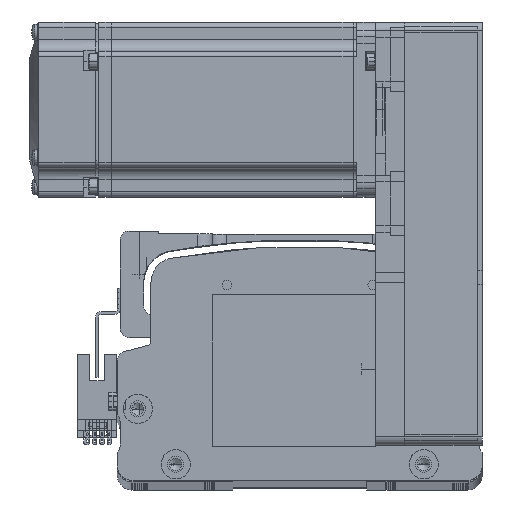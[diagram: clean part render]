
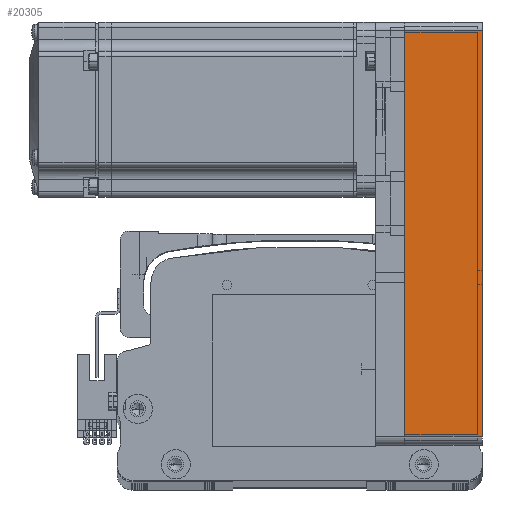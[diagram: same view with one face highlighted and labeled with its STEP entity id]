
A CAD part, top view. The second image highlights one B-rep face of the part: STEP entity #20305.
In plain terms, the highlighted planar face has unit normal (0, 0, 1) as drawn and (0, 1, 0) by its records, which use the part's own axes.
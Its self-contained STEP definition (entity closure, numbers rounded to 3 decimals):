
#95 = VECTOR ( 'NONE', #797, 1000. ) ;
#797 = DIRECTION ( 'NONE',  ( -1., 0., 0. ) ) ;
#878 = VERTEX_POINT ( 'NONE', #73665 ) ;
#6818 = DIRECTION ( 'NONE',  ( -1., 0., 0. ) ) ;
#7029 = DIRECTION ( 'NONE',  ( 0., 0., -1. ) ) ;
#7710 = EDGE_CURVE ( 'NONE', #75124, #878, #64995, .T. ) ;
#12229 = CARTESIAN_POINT ( 'NONE',  ( -69.5, 30., 26.5 ) ) ;
#18163 = ORIENTED_EDGE ( 'NONE', *, *, #7710, .T. ) ;
#20305 = ADVANCED_FACE ( 'NONE', ( #77441 ), #41718, .F. ) ;
#24431 = ORIENTED_EDGE ( 'NONE', *, *, #62655, .T. ) ;
#24659 = LINE ( 'NONE', #27553, #40674 ) ;
#25908 = DIRECTION ( 'NONE',  ( 0., 0., 1. ) ) ;
#26174 = VECTOR ( 'NONE', #25908, 1000. ) ;
#27553 = CARTESIAN_POINT ( 'NONE',  ( 69.5, 30., 26.5 ) ) ;
#29091 = EDGE_CURVE ( 'NONE', #55998, #47000, #72517, .T. ) ;
#30459 = LINE ( 'NONE', #12229, #26174 ) ;
#31178 = CARTESIAN_POINT ( 'NONE',  ( 69.5, 30., 0. ) ) ;
#31460 = EDGE_CURVE ( 'NONE', #878, #47000, #30459, .T. ) ;
#35025 = CARTESIAN_POINT ( 'NONE',  ( 72.5, 30., 26.5 ) ) ;
#35148 = CARTESIAN_POINT ( 'NONE',  ( 72.5, 30., 26.5 ) ) ;
#40674 = VECTOR ( 'NONE', #7029, 1000. ) ;
#41718 = PLANE ( 'NONE',  #45913 ) ;
#41993 = DIRECTION ( 'NONE',  ( 1., 0., 0. ) ) ;
#45913 = AXIS2_PLACEMENT_3D ( 'NONE', #35148, #82712, #41993 ) ;
#47000 = VERTEX_POINT ( 'NONE', #59948 ) ;
#55998 = VERTEX_POINT ( 'NONE', #57714 ) ;
#57714 = CARTESIAN_POINT ( 'NONE',  ( 69.5, 30., 26.5 ) ) ;
#59948 = CARTESIAN_POINT ( 'NONE',  ( -69.5, 30., 26.5 ) ) ;
#62655 = EDGE_CURVE ( 'NONE', #55998, #75124, #24659, .T. ) ;
#64995 = LINE ( 'NONE', #81758, #67103 ) ;
#67103 = VECTOR ( 'NONE', #6818, 1000. ) ;
#70426 = ORIENTED_EDGE ( 'NONE', *, *, #29091, .F. ) ;
#72517 = LINE ( 'NONE', #35025, #95 ) ;
#73665 = CARTESIAN_POINT ( 'NONE',  ( -69.5, 30., 0. ) ) ;
#75124 = VERTEX_POINT ( 'NONE', #31178 ) ;
#77441 = FACE_OUTER_BOUND ( 'NONE', #85794, .T. ) ;
#81758 = CARTESIAN_POINT ( 'NONE',  ( 72.5, 30., 0. ) ) ;
#82712 = DIRECTION ( 'NONE',  ( 0., -1., 0. ) ) ;
#85794 = EDGE_LOOP ( 'NONE', ( #18163, #87840, #70426, #24431 ) ) ;
#87840 = ORIENTED_EDGE ( 'NONE', *, *, #31460, .T. ) ;
